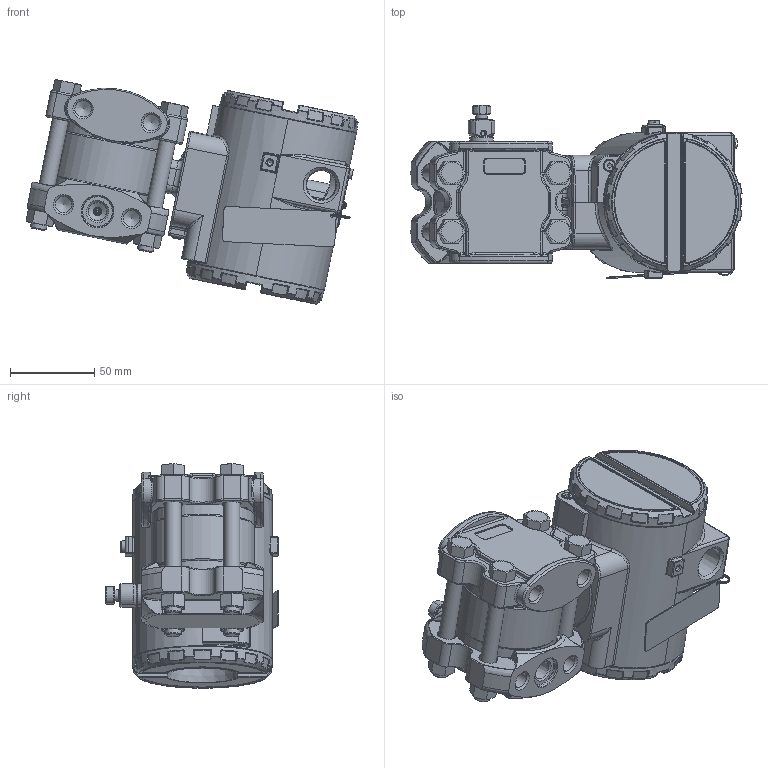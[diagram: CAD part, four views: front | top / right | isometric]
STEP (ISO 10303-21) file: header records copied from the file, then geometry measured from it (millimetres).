
FILE_DESCRIPTION(/* description */ (''),/* implementation_level */ '2;1');
FILE_NAME(/* name */ 'F:\Area\Desenvolvimento_2\Projects\Sensor\projetos\LD30X\montagens 3d - clientes\LD30XA5 1-4NPT Monel purga oposta.stp',/* time_stamp */ '2023-02-06T16:51:16-03:00',/* author */ ('inventor02'),/* organization */ (''),/* preprocessor_version */ 'ST-DEVELOPER v17',/* originating_system */ 'Autodesk Inventor 2019',/* authorisation */ '');
FILE_SCHEMA (('CONFIG_CONTROL_DESIGN'));
Length unit declared in the file: millimetre
Products named in the file (30): LD30XA5 1-4NPT Monel purga oposta; manometrico FX5 monel purga oposta; involucro fx5 apos a usinagem final; 101-C-0040-05 monel barra 7-16; 096-C-0014-13 manom reforçado; Paraf. 3-8 x 16 UNC; Porca 3-8 x 16 UNC; 075-B-0046-purgador; Sangria; carcaça vazia com tampas e plaqueta; carcaça LD inox sem letras; Subconjunto plaqueta 300; Plaqueta transmissor; Parafuso da Plaqueta; Rebite da Plaqueta; 096-A-0169-03; 101-A-0502-01; Chapa aterramento externo; ISO 1207 - M4 x 8; DIN 915 - M6 x 10; ANSI B18.3.1M - M4x0,7 x 8; Subconjunto tampa com visor aluminio; tampa pintada; VIDRO DO VISOR; oring 41x1 vidro tampa; Trava do vidro da tampa com visor; trava do vidro VH256; Subconjunto tampa sem visor-aluminio; tampa cega 300 pintada p0; 00034775-0
Assembly tree (37 placements, depth 4):
  LD30XA5 1-4NPT Monel purga oposta
    manometrico FX5 monel purga oposta
      involucro fx5 apos a usinagem final
      101-C-0040-05 monel barra 7-16
      096-C-0014-13 manom reforçado
      Paraf. 3-8 x 16 UNC  x4
      Porca 3-8 x 16 UNC  x4
      075-B-0046-purgador
      Sangria
    carcaça vazia com tampas e plaqueta
      carcaça LD inox sem letras
      Subconjunto plaqueta 300
        Plaqueta transmissor
        Parafuso da Plaqueta
        Rebite da Plaqueta
        096-A-0169-03
        101-A-0502-01
      Chapa aterramento externo
      ISO 1207 - M4 x 8
      DIN 915 - M6 x 10
      ANSI B18.3.1M - M4x0,7 x 8  x2
      Subconjunto tampa com visor aluminio
        tampa pintada
        VIDRO DO VISOR
        oring 41x1 vidro tampa
        Trava do vidro da tampa com visor
        trava do vidro VH256
        00034775-0
      Subconjunto tampa sem visor-aluminio
        tampa cega 300 pintada p0
        00034775-0
Bounding box: 197.46 x 103.1 x 133.41 mm (x, y, z)
Volume: 614638.1 mm3; surface area: 232416.1 mm2
Topology: 32 solids, 32 shells, 2318 faces, 5618 edges, 3331 vertices
Faces by surface type: bspline 587, cylinder 547, plane 454, torus 393, cone 230, sphere 107
Full cylindrical faces by diameter (mm): 2 x2, 2.1 x2, 2.459 x5, 2.642 x1, 2.7 x1, 3 x3, 3.242 x4, 3.5 x4, 3.571 x1, 4 x4, 4.3 x1, 4.4 x1, 4.917 x1, 5 x2, 5.5 x1, 6 x2, 6.8 x1, 7 x5, 7.087 x2, 7.6 x2, 7.798 x4, 8 x1, 8.7 x2, 9.525 x4, 9.728 x8, 10.5 x8, 10.719 x2, 12 x1, 13.8 x1, 14 x1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
Entity records: 82809 total; most frequent: CARTESIAN_POINT 32032, ORIENTED_EDGE 10646, DIRECTION 10230, EDGE_CURVE 5323, AXIS2_PLACEMENT_3D 4493, VERTEX_POINT 3197, CIRCLE 2665, EDGE_LOOP 2336
